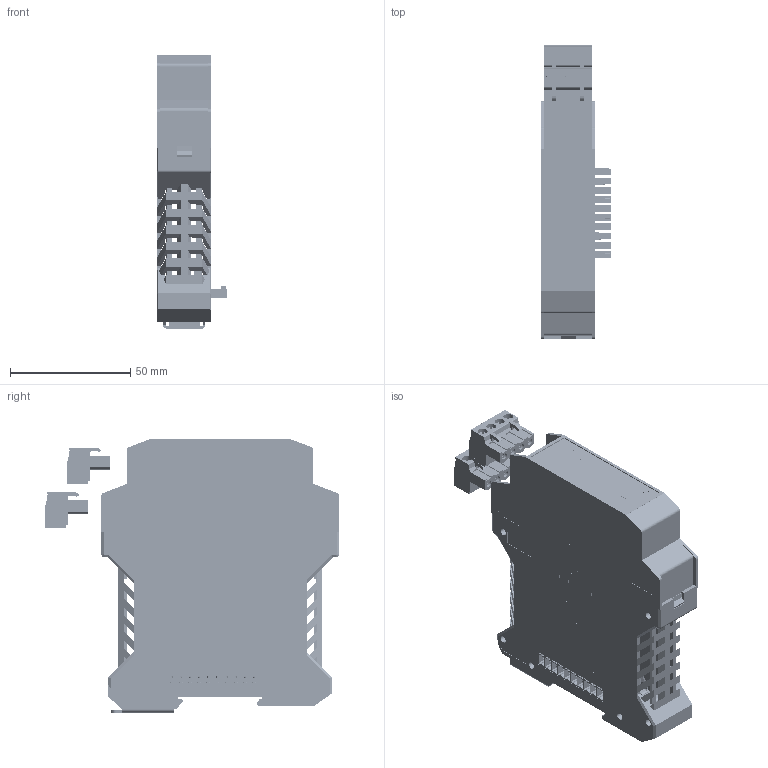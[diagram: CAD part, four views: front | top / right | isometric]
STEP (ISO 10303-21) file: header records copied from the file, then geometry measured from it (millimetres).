
FILE_DESCRIPTION(('STEP AP203'), '1');
FILE_NAME('鍛鍧 BIC-4', '', ('UNSPECIFIED'), ('UNSPECIFIED'), 'ASCON STEP Converter 1.3', 'ASCON Math Kernel', '');
FILE_SCHEMA(('CONFIG_CONTROL_DESIGN'));
Length unit declared in the file: millimetre
Products named in the file (17): MSTBT_2.5-4-ST; ME_22.5_UTR_H_BUS_10_H.Select__00496319; ME_Verriegelungshaken_H.Select__00446697; ME_22.5_UTL_H_BUS_10_H.Select__00496310; ME_BUS_22.5_MC_10-ST_H.Select__00493208; ME_BUS_FE-CONTACT_H.Select__00437355; Fussriegel_17.5_L30_H.Select__00315466; ME_22_5_OT-MSTBO_H.Select__00273265; MSTBO_2_5_4-G1L_H.Select__00364411; ч蜱齁罻; ME_B-22.5_MSTBO_H.Select__00296524
Assembly tree (20 placements, depth 5):
  (unnamed)
    MSTBT_2.5-4-ST  x2
      MSTBT_2.5-4-ST
    (unnamed)
      (unnamed)
        (unnamed)
          ME_22.5_UTR_H_BUS_10_H.Select__00496319
          ME_Verriegelungshaken_H.Select__00446697  x2
          ME_22.5_UTL_H_BUS_10_H.Select__00496310
          ME_BUS_22.5_MC_10-ST_H.Select__00493208
          ME_BUS_FE-CONTACT_H.Select__00437355
          Fussriegel_17.5_L30_H.Select__00315466
      (unnamed)
        ME_22_5_OT-MSTBO_H.Select__00273265
        MSTBO_2_5_4-G1L_H.Select__00364411  x2
        ч蜱齁罻  x2
          ME_B-22.5_MSTBO_H.Select__00296524
Bounding box: 29.11 x 122.45 x 113.6 mm (x, y, z)
Volume: 67999.6 mm3; surface area: 94402.9 mm2
Topology: 17 solids, 17 shells, 11325 faces, 31974 edges, 21205 vertices
Faces by surface type: plane 6795, cylinder 4230, extrusion 278, cone 22
Full cylindrical faces by diameter (mm): 0.813 x3, 0.853 x3, 1.353 x8, 1.4 x16, 1.6 x20, 2 x6, 2.1 x3, 2.8 x16, 3 x12, 3.783 x8, 4 x8
Entity records: 420778 total; most frequent: CARTESIAN_POINT 63171, ORIENTED_EDGE 58168, DIRECTION 57109, EDGE_CURVE 29084, VECTOR 20565, LINE 20324, VERTEX_POINT 19353, AXIS2_PLACEMENT_3D 18272
